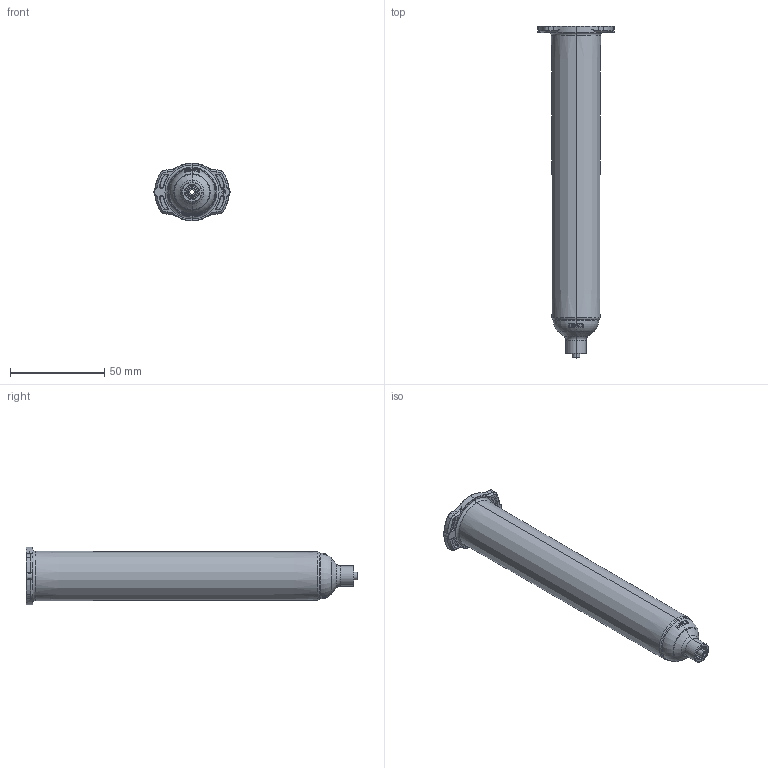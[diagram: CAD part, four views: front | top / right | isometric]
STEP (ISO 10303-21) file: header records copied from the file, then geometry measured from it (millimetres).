
FILE_DESCRIPTION (( 'STEP AP214' ), '1' );
FILE_NAME ('NORDSONEFD-7012003 BARREL O 55CC BK.STEP', '2019-05-03T07:50:10', ( '' ), ( '' ), 'SwSTEP 2.0', 'SolidWorks 2019', '' );
FILE_SCHEMA (( 'AUTOMOTIVE_DESIGN' ));
Length unit declared in the file: inch
Products named in the file (1): NORDSONEFD-7012003 BARREL O 55CC BK
Bounding box: 40.38 x 175.77 x 30.65 mm (x, y, z)
Volume: 21531.2 mm3; surface area: 26817.4 mm2
Topology: 1 solids, 1 shells, 537 faces, 1356 edges, 833 vertices
Faces by surface type: bspline 248, plane 125, torus 79, cylinder 52, cone 33
Entity records: 22834 total; most frequent: CARTESIAN_POINT 12014, ORIENTED_EDGE 2704, DIRECTION 1541, EDGE_CURVE 1352, VERTEX_POINT 833, B_SPLINE_CURVE_WITH_KNOTS 668, AXIS2_PLACEMENT_3D 593, EDGE_LOOP 555
